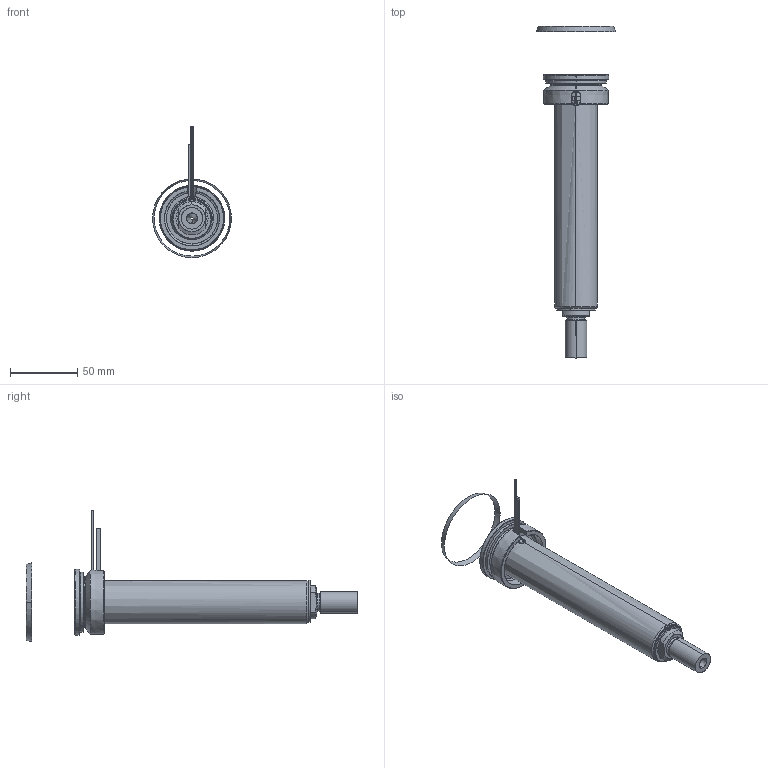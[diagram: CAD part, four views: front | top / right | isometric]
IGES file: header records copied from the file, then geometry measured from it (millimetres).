
Start section: SolidWorks IGES file using analytic representation for surfaces
Global section: file name: C:\Documents and Settings\ws-20\Desktop\TEMPORANEA\UGBE5004-S-A-P-5 [Ød-2.0 P-25 ØC-12].IGS; native system: SolidWorks 2012; preprocessor: SolidWorks 2012; author: ws-20; date: 120306.150056; units: millimetre
Bounding box: 58.79 x 247.44 x 98.01 mm (x, y, z)
Surface area: 69034.4 mm2 (no closed solid volume)
Topology: 0 solids, 0 shells, 113 faces, 2130 edges, 2130 vertices
Faces by surface type: revolution 70, bspline 43
